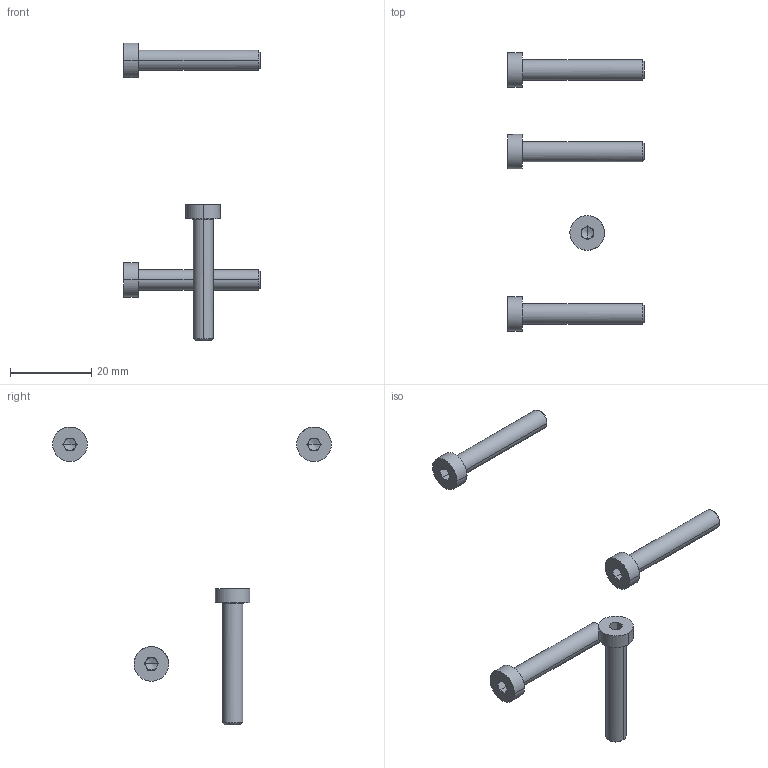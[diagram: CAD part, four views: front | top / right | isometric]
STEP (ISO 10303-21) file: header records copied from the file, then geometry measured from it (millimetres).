
FILE_DESCRIPTION(/* description */ (''),/* implementation_level */ '2;1');
FILE_NAME(/* name */ '5.y-cart#5.2#CBSST5-30',/* time_stamp */ '2014-12-01T20:13:15+01:00',/* author */ (''),/* organization */ (''),/* preprocessor_version */ 'ST-DEVELOPER v14',/* originating_system */ '',/* authorisation */ '');
FILE_SCHEMA (('AUTOMOTIVE_DESIGN'));
Length unit declared in the file: millimetre
Products named in the file (2): Document; screw DIN7984-like, low, M5x30
Assembly tree (4 placements, depth 2):
  Document
    screw DIN7984-like, low, M5x30  x4
Bounding box: 33.5 x 68.5 x 73.25 mm (x, y, z)
Volume: 3064.2 mm3; surface area: 2804.5 mm2
Topology: 4 solids, 4 shells, 100 faces, 236 edges, 144 vertices
Faces by surface type: plane 60, bspline 40
Entity records: 1604 total; most frequent: CARTESIAN_POINT 780, B_SPLINE_CURVE_WITH_KNOTS 129, ORIENTED_EDGE 114, PCURVE 114, DEFINITIONAL_REPRESENTATION 114, SURFACE_CURVE 57, EDGE_CURVE 57, VERTEX_POINT 36
